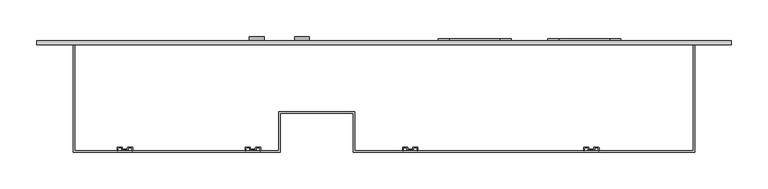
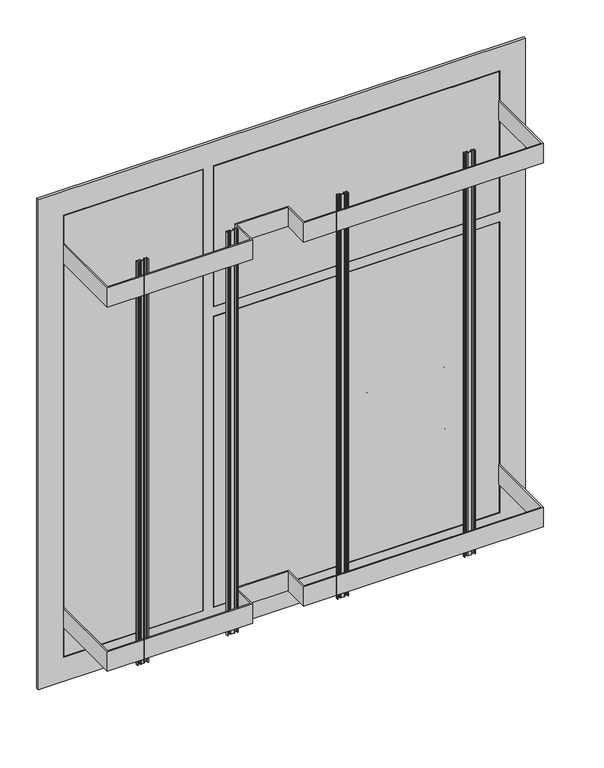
"""IFC4 building model written with IfcOpenShell, lengths in millimetres: proxy geometry, ЩЭ : ЩЭ_5 квартир."""

from ifc_helpers import new_model, si_unit, point, frame, frame_2d, origin, place, context, project, spatial, polyline, circle_curve, trimmed, segment, composite_curve, outline, extrude, source, transform, mapped, element, save
from ifc_brep_helpers import plane_surface, cylinder_surface, revolved_surface, advanced_brep


def electrical_equipment_55ce43f8(model_context):
    return source(origin(), model_context, "Body", "SolidModel", [
        extrude(outline(composite_curve([segment(trimmed(circle_curve(frame_2d((373.0, 89.0)), 15.0), [point((388.0, 89.0))], [point((373.0, 74.0))], False, "CARTESIAN"), True, "CONTINUOUS"), segment(polyline([(373.0, 74.0), (338.0, 74.0)]), True, "CONTINUOUS"), segment(trimmed(circle_curve(frame_2d((338.0, 89.0)), 15.0), [point((338.0, 74.0))], [point((323.0, 89.0))], False, "CARTESIAN"), True, "CONTINUOUS"), segment(polyline([(323.0, 89.0), (323.0, 159.0)]), True, "CONTINUOUS"), segment(trimmed(circle_curve(frame_2d((338.0, 159.0)), 15.0), [point((323.0, 159.0))], [point((338.0, 174.0))], False, "CARTESIAN"), True, "CONTINUOUS"), segment(polyline([(338.0, 174.0), (373.0, 174.0)]), True, "CONTINUOUS"), segment(trimmed(circle_curve(frame_2d((373.0, 159.0)), 15.0), [point((373.0, 174.0))], [point((388.0, 159.0))], False, "CARTESIAN"), True, "CONTINUOUS"), segment(polyline([(388.0, 159.0), (388.0, 89.0)]), True, "CONTINUOUS")], self_intersect=False)), frame((0.0, 5.0, 0.0), z_axis=(0.0, 1.0, 0.0), x_axis=(0.0, 0.0, 1.0)), (0.0, 0.0, 1.0), 3.0),
        extrude(outline(composite_curve([segment(trimmed(circle_curve(frame_2d((373.0, 239.0)), 15.0), [point((388.0, 239.0))], [point((373.0, 224.0))], False, "CARTESIAN"), True, "CONTINUOUS"), segment(polyline([(373.0, 224.0), (338.0, 224.0)]), True, "CONTINUOUS"), segment(trimmed(circle_curve(frame_2d((338.0, 239.0)), 15.0), [point((338.0, 224.0))], [point((323.0, 239.0))], False, "CARTESIAN"), True, "CONTINUOUS"), segment(polyline([(323.0, 239.0), (323.0, 309.0)]), True, "CONTINUOUS"), segment(trimmed(circle_curve(frame_2d((338.0, 309.0)), 15.0), [point((323.0, 309.0))], [point((338.0, 324.0))], False, "CARTESIAN"), True, "CONTINUOUS"), segment(polyline([(338.0, 324.0), (373.0, 324.0)]), True, "CONTINUOUS"), segment(trimmed(circle_curve(frame_2d((373.0, 309.0)), 15.0), [point((373.0, 324.0))], [point((388.0, 309.0))], False, "CARTESIAN"), True, "CONTINUOUS"), segment(polyline([(388.0, 309.0), (388.0, 239.0)]), True, "CONTINUOUS")], self_intersect=False)), frame((0.0, 5.0, 0.0), z_axis=(0.0, 1.0, 0.0), x_axis=(0.0, 0.0, 1.0)), (0.0, 0.0, 1.0), 3.0),
        extrude(outline(composite_curve([segment(trimmed(circle_curve(frame_2d((248.0, 239.0)), 15.0), [point((263.0, 239.0))], [point((248.0, 224.0))], False, "CARTESIAN"), True, "CONTINUOUS"), segment(polyline([(248.0, 224.0), (213.0, 224.0)]), True, "CONTINUOUS"), segment(trimmed(circle_curve(frame_2d((213.0, 239.0)), 15.0), [point((213.0, 224.0))], [point((198.0, 239.0))], False, "CARTESIAN"), True, "CONTINUOUS"), segment(polyline([(198.0, 239.0), (198.0, 309.0)]), True, "CONTINUOUS"), segment(trimmed(circle_curve(frame_2d((213.0, 309.0)), 15.0), [point((198.0, 309.0))], [point((213.0, 324.0))], False, "CARTESIAN"), True, "CONTINUOUS"), segment(polyline([(213.0, 324.0), (248.0, 324.0)]), True, "CONTINUOUS"), segment(trimmed(circle_curve(frame_2d((248.0, 309.0)), 15.0), [point((248.0, 324.0))], [point((263.0, 309.0))], False, "CARTESIAN"), True, "CONTINUOUS"), segment(polyline([(263.0, 309.0), (263.0, 239.0)]), True, "CONTINUOUS")], self_intersect=False)), frame((0.0, 5.0, 0.0), z_axis=(0.0, 1.0, 0.0), x_axis=(0.0, 0.0, 1.0)), (0.0, 0.0, 1.0), 3.0),
        extrude(outline(composite_curve([segment(trimmed(circle_curve(frame_2d((498.0, 89.0)), 15.0), [point((513.0, 89.0))], [point((498.0, 74.0))], False, "CARTESIAN"), True, "CONTINUOUS"), segment(polyline([(498.0, 74.0), (463.0, 74.0)]), True, "CONTINUOUS"), segment(trimmed(circle_curve(frame_2d((463.0, 89.0)), 15.0), [point((463.0, 74.0))], [point((448.0, 89.0))], False, "CARTESIAN"), True, "CONTINUOUS"), segment(polyline([(448.0, 89.0), (448.0, 159.0)]), True, "CONTINUOUS"), segment(trimmed(circle_curve(frame_2d((463.0, 159.0)), 15.0), [point((448.0, 159.0))], [point((463.0, 174.0))], False, "CARTESIAN"), True, "CONTINUOUS"), segment(polyline([(463.0, 174.0), (498.0, 174.0)]), True, "CONTINUOUS"), segment(trimmed(circle_curve(frame_2d((498.0, 159.0)), 15.0), [point((498.0, 174.0))], [point((513.0, 159.0))], False, "CARTESIAN"), True, "CONTINUOUS"), segment(polyline([(513.0, 159.0), (513.0, 89.0)]), True, "CONTINUOUS")], self_intersect=False)), frame((0.0, 5.0, 0.0), z_axis=(0.0, 1.0, 0.0), x_axis=(0.0, 0.0, 1.0)), (0.0, 0.0, 1.0), 3.0),
        extrude(outline(composite_curve([segment(trimmed(circle_curve(frame_2d((498.0, 239.0)), 15.0), [point((513.0, 239.0))], [point((498.0, 224.0))], False, "CARTESIAN"), True, "CONTINUOUS"), segment(polyline([(498.0, 224.0), (463.0, 224.0)]), True, "CONTINUOUS"), segment(trimmed(circle_curve(frame_2d((463.0, 239.0)), 15.0), [point((463.0, 224.0))], [point((448.0, 239.0))], False, "CARTESIAN"), True, "CONTINUOUS"), segment(polyline([(448.0, 239.0), (448.0, 309.0)]), True, "CONTINUOUS"), segment(trimmed(circle_curve(frame_2d((463.0, 309.0)), 15.0), [point((448.0, 309.0))], [point((463.0, 324.0))], False, "CARTESIAN"), True, "CONTINUOUS"), segment(polyline([(463.0, 324.0), (498.0, 324.0)]), True, "CONTINUOUS"), segment(trimmed(circle_curve(frame_2d((498.0, 309.0)), 15.0), [point((498.0, 324.0))], [point((513.0, 309.0))], False, "CARTESIAN"), True, "CONTINUOUS"), segment(polyline([(513.0, 309.0), (513.0, 239.0)]), True, "CONTINUOUS")], self_intersect=False)), frame((0.0, 5.0, 0.0), z_axis=(0.0, 1.0, 0.0), x_axis=(0.0, 0.0, 1.0)), (0.0, 0.0, 1.0), 3.0),
        extrude(outline(composite_curve([segment(trimmed(circle_curve(frame_2d((26.3020158, -141.0)), 1.0), [point((25.3020158, -141.0))], [point((26.3020158, -140.0))], False, "CARTESIAN"), True, "CONTINUOUS"), segment(polyline([(26.3020158, -140.0), (31.3020158, -140.0)]), True, "CONTINUOUS"), segment(trimmed(circle_curve(frame_2d((31.3020158, -141.0)), 1.0), [point((31.3020158, -140.0))], [point((32.3020158, -141.0))], False, "CARTESIAN"), True, "CONTINUOUS"), segment(polyline([(32.3020158, -141.0), (32.3020158, -142.0)]), True, "CONTINUOUS"), segment(trimmed(circle_curve(frame_2d((33.3020158, -142.0)), 1.0), [point((32.3020158, -142.0))], [point((33.3020158, -143.0))], True, "CARTESIAN"), True, "CONTINUOUS"), segment(polyline([(33.3020158, -143.0), (38.3020158, -143.0)]), True, "CONTINUOUS"), segment(trimmed(circle_curve(frame_2d((38.3020158, -142.0)), 1.0), [point((38.3020158, -143.0))], [point((39.3020158, -142.0))], True, "CARTESIAN"), True, "CONTINUOUS"), segment(polyline([(39.3020158, -142.0), (39.3020158, -141.0)]), True, "CONTINUOUS"), segment(trimmed(circle_curve(frame_2d((40.3020158, -141.0)), 1.0), [point((39.3020158, -141.0))], [point((40.3020158, -140.0))], False, "CARTESIAN"), True, "CONTINUOUS"), segment(polyline([(40.3020158, -140.0), (45.3020158, -140.0)]), True, "CONTINUOUS"), segment(trimmed(circle_curve(frame_2d((45.3020158, -141.0)), 1.0), [point((45.3020158, -140.0))], [point((46.3020158, -141.0))], False, "CARTESIAN"), True, "CONTINUOUS"), segment(polyline([(46.3020158, -141.0), (46.3020158, -145.0), (45.3020158, -145.0), (45.3020158, -142.0)]), True, "CONTINUOUS"), segment(trimmed(circle_curve(frame_2d((44.3020158, -142.0)), 1.0), [point((45.3020158, -142.0))], [point((44.3020158, -141.0))], True, "CARTESIAN"), True, "CONTINUOUS"), segment(polyline([(44.3020158, -141.0), (41.3020158, -141.0)]), True, "CONTINUOUS"), segment(trimmed(circle_curve(frame_2d((41.3020158, -142.0)), 1.0), [point((41.3020158, -141.0))], [point((40.3020158, -142.0))], True, "CARTESIAN"), True, "CONTINUOUS"), segment(polyline([(40.3020158, -142.0), (40.3020158, -143.0)]), True, "CONTINUOUS"), segment(trimmed(circle_curve(frame_2d((39.3020158, -143.0)), 1.0), [point((40.3020158, -143.0))], [point((39.3020158, -144.0))], False, "CARTESIAN"), True, "CONTINUOUS"), segment(polyline([(39.3020158, -144.0), (32.3020158, -144.0)]), True, "CONTINUOUS"), segment(trimmed(circle_curve(frame_2d((32.3020158, -143.0)), 1.0), [point((32.3020158, -144.0))], [point((31.3020158, -143.0))], False, "CARTESIAN"), True, "CONTINUOUS"), segment(polyline([(31.3020158, -143.0), (31.3020158, -142.0)]), True, "CONTINUOUS"), segment(trimmed(circle_curve(frame_2d((30.3020158, -142.0)), 1.0), [point((31.3020158, -142.0))], [point((30.3020158, -141.0))], True, "CARTESIAN"), True, "CONTINUOUS"), segment(polyline([(30.3020158, -141.0), (27.3020158, -141.0)]), True, "CONTINUOUS"), segment(trimmed(circle_curve(frame_2d((27.3020158, -142.0)), 1.0), [point((27.3020158, -141.0))], [point((26.3020158, -142.0))], True, "CARTESIAN"), True, "CONTINUOUS"), segment(polyline([(26.3020158, -142.0), (26.3020158, -145.0), (25.3020158, -145.0), (25.3020158, -141.0)]), True, "CONTINUOUS")], self_intersect=False)), frame((0.0, 0.0, 99.2671013), z_axis=(0.0, 0.0, 1.0), x_axis=(1.0, 0.0, 0.0)), (0.0, 0.0, 1.0), 830.6584154),
        extrude(outline(composite_curve([segment(trimmed(circle_curve(frame_2d((274.0, -141.0)), 1.0), [point((273.0, -141.0))], [point((274.0, -140.0))], False, "CARTESIAN"), True, "CONTINUOUS"), segment(polyline([(274.0, -140.0), (279.0, -140.0)]), True, "CONTINUOUS"), segment(trimmed(circle_curve(frame_2d((279.0, -141.0)), 1.0), [point((279.0, -140.0))], [point((280.0, -141.0))], False, "CARTESIAN"), True, "CONTINUOUS"), segment(polyline([(280.0, -141.0), (280.0, -142.0)]), True, "CONTINUOUS"), segment(trimmed(circle_curve(frame_2d((281.0, -142.0)), 1.0), [point((280.0, -142.0))], [point((281.0, -143.0))], True, "CARTESIAN"), True, "CONTINUOUS"), segment(polyline([(281.0, -143.0), (286.0, -143.0)]), True, "CONTINUOUS"), segment(trimmed(circle_curve(frame_2d((286.0, -142.0)), 1.0), [point((286.0, -143.0))], [point((287.0, -142.0))], True, "CARTESIAN"), True, "CONTINUOUS"), segment(polyline([(287.0, -142.0), (287.0, -141.0)]), True, "CONTINUOUS"), segment(trimmed(circle_curve(frame_2d((288.0, -141.0)), 1.0), [point((287.0, -141.0))], [point((288.0, -140.0))], False, "CARTESIAN"), True, "CONTINUOUS"), segment(polyline([(288.0, -140.0), (293.0, -140.0)]), True, "CONTINUOUS"), segment(trimmed(circle_curve(frame_2d((293.0, -141.0)), 1.0), [point((293.0, -140.0))], [point((294.0, -141.0))], False, "CARTESIAN"), True, "CONTINUOUS"), segment(polyline([(294.0, -141.0), (294.0, -145.0), (293.0, -145.0), (293.0, -142.0)]), True, "CONTINUOUS"), segment(trimmed(circle_curve(frame_2d((292.0, -142.0)), 1.0), [point((293.0, -142.0))], [point((292.0, -141.0))], True, "CARTESIAN"), True, "CONTINUOUS"), segment(polyline([(292.0, -141.0), (289.0, -141.0)]), True, "CONTINUOUS"), segment(trimmed(circle_curve(frame_2d((289.0, -142.0)), 1.0), [point((289.0, -141.0))], [point((288.0, -142.0))], True, "CARTESIAN"), True, "CONTINUOUS"), segment(polyline([(288.0, -142.0), (288.0, -143.0)]), True, "CONTINUOUS"), segment(trimmed(circle_curve(frame_2d((287.0, -143.0)), 1.0), [point((288.0, -143.0))], [point((287.0, -144.0))], False, "CARTESIAN"), True, "CONTINUOUS"), segment(polyline([(287.0, -144.0), (280.0, -144.0)]), True, "CONTINUOUS"), segment(trimmed(circle_curve(frame_2d((280.0, -143.0)), 1.0), [point((280.0, -144.0))], [point((279.0, -143.0))], False, "CARTESIAN"), True, "CONTINUOUS"), segment(polyline([(279.0, -143.0), (279.0, -142.0)]), True, "CONTINUOUS"), segment(trimmed(circle_curve(frame_2d((278.0, -142.0)), 1.0), [point((279.0, -142.0))], [point((278.0, -141.0))], True, "CARTESIAN"), True, "CONTINUOUS"), segment(polyline([(278.0, -141.0), (275.0, -141.0)]), True, "CONTINUOUS"), segment(trimmed(circle_curve(frame_2d((275.0, -142.0)), 1.0), [point((275.0, -141.0))], [point((274.0, -142.0))], True, "CARTESIAN"), True, "CONTINUOUS"), segment(polyline([(274.0, -142.0), (274.0, -145.0), (273.0, -145.0), (273.0, -141.0)]), True, "CONTINUOUS")], self_intersect=False)), frame((0.0, 0.0, 99.2671013), z_axis=(0.0, 0.0, 1.0), x_axis=(1.0, 0.0, 0.0)), (0.0, 0.0, 1.0), 830.6584154),
        extrude(outline(composite_curve([segment(trimmed(circle_curve(frame_2d((-188.6979842, -141.0)), 1.0), [point((-189.6979842, -141.0))], [point((-188.6979842, -140.0))], False, "CARTESIAN"), True, "CONTINUOUS"), segment(polyline([(-188.6979842, -140.0), (-183.6979842, -140.0)]), True, "CONTINUOUS"), segment(trimmed(circle_curve(frame_2d((-183.6979842, -141.0)), 1.0), [point((-183.6979842, -140.0))], [point((-182.6979842, -141.0))], False, "CARTESIAN"), True, "CONTINUOUS"), segment(polyline([(-182.6979842, -141.0), (-182.6979842, -142.0)]), True, "CONTINUOUS"), segment(trimmed(circle_curve(frame_2d((-181.6979842, -142.0)), 1.0), [point((-182.6979842, -142.0))], [point((-181.6979842, -143.0))], True, "CARTESIAN"), True, "CONTINUOUS"), segment(polyline([(-181.6979842, -143.0), (-176.6979842, -143.0)]), True, "CONTINUOUS"), segment(trimmed(circle_curve(frame_2d((-176.6979842, -142.0)), 1.0), [point((-176.6979842, -143.0))], [point((-175.6979842, -142.0))], True, "CARTESIAN"), True, "CONTINUOUS"), segment(polyline([(-175.6979842, -142.0), (-175.6979842, -141.0)]), True, "CONTINUOUS"), segment(trimmed(circle_curve(frame_2d((-174.6979842, -141.0)), 1.0), [point((-175.6979842, -141.0))], [point((-174.6979842, -140.0))], False, "CARTESIAN"), True, "CONTINUOUS"), segment(polyline([(-174.6979842, -140.0), (-169.6979842, -140.0)]), True, "CONTINUOUS"), segment(trimmed(circle_curve(frame_2d((-169.6979842, -141.0)), 1.0), [point((-169.6979842, -140.0))], [point((-168.6979842, -141.0))], False, "CARTESIAN"), True, "CONTINUOUS"), segment(polyline([(-168.6979842, -141.0), (-168.6979842, -145.0), (-169.6979842, -145.0), (-169.6979842, -142.0)]), True, "CONTINUOUS"), segment(trimmed(circle_curve(frame_2d((-170.6979842, -142.0)), 1.0), [point((-169.6979842, -142.0))], [point((-170.6979842, -141.0))], True, "CARTESIAN"), True, "CONTINUOUS"), segment(polyline([(-170.6979842, -141.0), (-173.6979842, -141.0)]), True, "CONTINUOUS"), segment(trimmed(circle_curve(frame_2d((-173.6979842, -142.0)), 1.0), [point((-173.6979842, -141.0))], [point((-174.6979842, -142.0))], True, "CARTESIAN"), True, "CONTINUOUS"), segment(polyline([(-174.6979842, -142.0), (-174.6979842, -143.0)]), True, "CONTINUOUS"), segment(trimmed(circle_curve(frame_2d((-175.6979842, -143.0)), 1.0), [point((-174.6979842, -143.0))], [point((-175.6979842, -144.0))], False, "CARTESIAN"), True, "CONTINUOUS"), segment(polyline([(-175.6979842, -144.0), (-182.6979842, -144.0)]), True, "CONTINUOUS"), segment(trimmed(circle_curve(frame_2d((-182.6979842, -143.0)), 1.0), [point((-182.6979842, -144.0))], [point((-183.6979842, -143.0))], False, "CARTESIAN"), True, "CONTINUOUS"), segment(polyline([(-183.6979842, -143.0), (-183.6979842, -142.0)]), True, "CONTINUOUS"), segment(trimmed(circle_curve(frame_2d((-184.6979842, -142.0)), 1.0), [point((-183.6979842, -142.0))], [point((-184.6979842, -141.0))], True, "CARTESIAN"), True, "CONTINUOUS"), segment(polyline([(-184.6979842, -141.0), (-187.6979842, -141.0)]), True, "CONTINUOUS"), segment(trimmed(circle_curve(frame_2d((-187.6979842, -142.0)), 1.0), [point((-187.6979842, -141.0))], [point((-188.6979842, -142.0))], True, "CARTESIAN"), True, "CONTINUOUS"), segment(polyline([(-188.6979842, -142.0), (-188.6979842, -145.0), (-189.6979842, -145.0), (-189.6979842, -141.0)]), True, "CONTINUOUS")], self_intersect=False)), frame((0.0, 0.0, 99.2671013), z_axis=(0.0, 0.0, 1.0), x_axis=(1.0, 0.0, 0.0)), (0.0, 0.0, 1.0), 830.6584154),
        extrude(outline(composite_curve([segment(trimmed(circle_curve(frame_2d((-363.6979842, -141.0)), 1.0), [point((-364.6979842, -141.0))], [point((-363.6979842, -140.0))], False, "CARTESIAN"), True, "CONTINUOUS"), segment(polyline([(-363.6979842, -140.0), (-358.6979842, -140.0)]), True, "CONTINUOUS"), segment(trimmed(circle_curve(frame_2d((-358.6979842, -141.0)), 1.0), [point((-358.6979842, -140.0))], [point((-357.6979842, -141.0))], False, "CARTESIAN"), True, "CONTINUOUS"), segment(polyline([(-357.6979842, -141.0), (-357.6979842, -142.0)]), True, "CONTINUOUS"), segment(trimmed(circle_curve(frame_2d((-356.6979842, -142.0)), 1.0), [point((-357.6979842, -142.0))], [point((-356.6979842, -143.0))], True, "CARTESIAN"), True, "CONTINUOUS"), segment(polyline([(-356.6979842, -143.0), (-351.6979842, -143.0)]), True, "CONTINUOUS"), segment(trimmed(circle_curve(frame_2d((-351.6979842, -142.0)), 1.0), [point((-351.6979842, -143.0))], [point((-350.6979842, -142.0))], True, "CARTESIAN"), True, "CONTINUOUS"), segment(polyline([(-350.6979842, -142.0), (-350.6979842, -141.0)]), True, "CONTINUOUS"), segment(trimmed(circle_curve(frame_2d((-349.6979842, -141.0)), 1.0), [point((-350.6979842, -141.0))], [point((-349.6979842, -140.0))], False, "CARTESIAN"), True, "CONTINUOUS"), segment(polyline([(-349.6979842, -140.0), (-344.6979842, -140.0)]), True, "CONTINUOUS"), segment(trimmed(circle_curve(frame_2d((-344.6979842, -141.0)), 1.0), [point((-344.6979842, -140.0))], [point((-343.6979842, -141.0))], False, "CARTESIAN"), True, "CONTINUOUS"), segment(polyline([(-343.6979842, -141.0), (-343.6979842, -145.0), (-344.6979842, -145.0), (-344.6979842, -142.0)]), True, "CONTINUOUS"), segment(trimmed(circle_curve(frame_2d((-345.6979842, -142.0)), 1.0), [point((-344.6979842, -142.0))], [point((-345.6979842, -141.0))], True, "CARTESIAN"), True, "CONTINUOUS"), segment(polyline([(-345.6979842, -141.0), (-348.6979842, -141.0)]), True, "CONTINUOUS"), segment(trimmed(circle_curve(frame_2d((-348.6979842, -142.0)), 1.0), [point((-348.6979842, -141.0))], [point((-349.6979842, -142.0))], True, "CARTESIAN"), True, "CONTINUOUS"), segment(polyline([(-349.6979842, -142.0), (-349.6979842, -143.0)]), True, "CONTINUOUS"), segment(trimmed(circle_curve(frame_2d((-350.6979842, -143.0)), 1.0), [point((-349.6979842, -143.0))], [point((-350.6979842, -144.0))], False, "CARTESIAN"), True, "CONTINUOUS"), segment(polyline([(-350.6979842, -144.0), (-357.6979842, -144.0)]), True, "CONTINUOUS"), segment(trimmed(circle_curve(frame_2d((-357.6979842, -143.0)), 1.0), [point((-357.6979842, -144.0))], [point((-358.6979842, -143.0))], False, "CARTESIAN"), True, "CONTINUOUS"), segment(polyline([(-358.6979842, -143.0), (-358.6979842, -142.0)]), True, "CONTINUOUS"), segment(trimmed(circle_curve(frame_2d((-359.6979842, -142.0)), 1.0), [point((-358.6979842, -142.0))], [point((-359.6979842, -141.0))], True, "CARTESIAN"), True, "CONTINUOUS"), segment(polyline([(-359.6979842, -141.0), (-362.6979842, -141.0)]), True, "CONTINUOUS"), segment(trimmed(circle_curve(frame_2d((-362.6979842, -142.0)), 1.0), [point((-362.6979842, -141.0))], [point((-363.6979842, -142.0))], True, "CARTESIAN"), True, "CONTINUOUS"), segment(polyline([(-363.6979842, -142.0), (-363.6979842, -145.0), (-364.6979842, -145.0), (-364.6979842, -141.0)]), True, "CONTINUOUS")], self_intersect=False)), frame((0.0, 0.0, 99.2671013), z_axis=(0.0, 0.0, 1.0), x_axis=(1.0, 0.0, 0.0)), (0.0, 0.0, 1.0), 830.6584154),
        extrude(outline(polyline([(424.0, 0.0), (-132.0, 0.0), (-132.0, 5.0), (424.0, 5.0), (424.0, 0.0)])), frame((0.0, 0.0, 670.5), z_axis=(0.0, 0.0, 1.0), x_axis=(1.0, 0.0, 0.0)), (0.0, 0.0, 1.0), 288.5),
        extrude(outline(polyline([(-425.0, -147.0), (-425.0, 0.0), (-423.0, 0.0), (-423.0, -145.0), (-144.0, -145.0), (-144.0, -92.0), (-40.0, -92.0), (-40.0, -145.0), (423.0, -145.0), (423.0, 0.0), (425.0, 0.0), (425.0, -147.0), (-42.0, -147.0), (-42.0, -94.0), (-142.0, -94.0), (-142.0, -147.0), (-425.0, -147.0)])), frame((0.0, 0.0, 860.0), z_axis=(0.0, 0.0, 1.0), x_axis=(1.0, 0.0, 0.0)), (0.0, 0.0, 1.0), 40.0),
        extrude(outline(polyline([(-425.0, -147.0), (-425.0, 0.0), (-423.0, 0.0), (-423.0, -145.0), (-144.0, -145.0), (-144.0, -92.0), (-40.0, -92.0), (-40.0, -145.0), (423.0, -145.0), (423.0, 0.0), (425.0, 0.0), (425.0, -147.0), (-42.0, -147.0), (-42.0, -94.0), (-142.0, -94.0), (-142.0, -147.0), (-425.0, -147.0)])), frame((0.0, 0.0, 110.0), z_axis=(0.0, 0.0, 1.0), x_axis=(1.0, 0.0, 0.0)), (0.0, 0.0, 1.0), 40.0),
        advanced_brep(
        [(-184.0, 5.0, 505.0), (-164.0, 5.0, 505.0), (-174.0, 5.0, 505.0), (-184.0, 11.0, 505.0), (-164.0, 11.0, 505.0), (-177.1377642, 11.0, 505.0), (-170.8622358, 11.0, 505.0), (-177.1377642, 9.9822294, 505.0), (-170.8622358, 9.9822294, 505.0), (-174.0, 9.9822294, 505.0)],
        [
            (0, 1, circle_curve(frame((-174.0, 5.0, 505.0), z_axis=(0.0, -1.0, 0.0), x_axis=(1.0, 0.0, 0.0)), 10.0)),
            (1, 2),
            (2, 0),
            (1, 0, circle_curve(frame((-174.0, 5.0, 505.0), z_axis=(0.0, -1.0, 0.0), x_axis=(1.0, 0.0, 0.0)), 10.0)),
            (3, 4, circle_curve(frame((-174.0, 11.0, 505.0), z_axis=(0.0, -1.0, 0.0), x_axis=(1.0, 0.0, 0.0)), 10.0)),
            (4, 1),
            (0, 3),
            (4, 3, circle_curve(frame((-174.0, 11.0, 505.0), z_axis=(0.0, -1.0, 0.0), x_axis=(1.0, 0.0, 0.0)), 10.0)),
            (5, 6, circle_curve(frame((-174.0, 11.0, 505.0), z_axis=(0.0, -1.0, 0.0), x_axis=(1.0, 0.0, 0.0)), 3.1377642)),
            (6, 4),
            (3, 5),
            (6, 5, circle_curve(frame((-174.0, 11.0, 505.0), z_axis=(0.0, -1.0, 0.0), x_axis=(1.0, 0.0, 0.0)), 3.1377642)),
            (7, 8, circle_curve(frame((-174.0, 9.9822294, 505.0), z_axis=(0.0, -1.0, 0.0), x_axis=(1.0, 0.0, 0.0)), 3.1377642)),
            (8, 6),
            (5, 7),
            (8, 7, circle_curve(frame((-174.0, 9.9822294, 505.0), z_axis=(0.0, -1.0, 0.0), x_axis=(1.0, 0.0, 0.0)), 3.1377642)),
            (9, 8),
            (7, 9),
        ],
        [
            plane_surface(frame((-174.0, 5.0, 505.0), z_axis=(0.0, -1.0, 0.0), x_axis=(1.0, 0.0, 0.0))),
            cylinder_surface(frame((-174.0, 18.1348851, 505.0), z_axis=(0.0, 1.0, 0.0), x_axis=(1.0, 0.0, 0.0)), 10.0),
            plane_surface(frame((-174.0, 11.0, 505.0), z_axis=(0.0, 1.0, 0.0), x_axis=(1.0, 0.0, 0.0))),
            revolved_surface(polyline([(-170.8622358, 11.0, 505.0), (-170.8622358, 9.9822294, 505.0)]), (-174.0, 18.1348851, 505.0), (0.0, 1.0, 0.0)),
            plane_surface(frame((-174.0, 9.9822294, 505.0), z_axis=(0.0, 1.0, 0.0), x_axis=(1.0, 0.0, 0.0))),
        ],
        [
            (0, [[1, 2, 3]]),
            (0, [[4, -3, -2]]),
            (1, [[5, 6, -1, 7]]),
            (1, [[8, -7, -4, -6]]),
            (2, [[9, 10, -5, 11]]),
            (2, [[12, -11, -8, -10]]),
            (3, [[13, 14, -9, 15]]),
            (3, [[16, -15, -12, -14]]),
            (4, [[17, -13, 18]]),
            (4, [[-18, -16, -17]]),
        ],
    ),
        advanced_brep(
        [(-122.0, 5.0, 340.3115373), (-102.0, 5.0, 340.3115373), (-112.0, 5.0, 340.3115373), (-122.0, 11.0, 340.3115373), (-102.0, 11.0, 340.3115373), (-115.1377642, 11.0, 340.3115373), (-108.8622358, 11.0, 340.3115373), (-115.1377642, 9.9822294, 340.3115373), (-108.8622358, 9.9822294, 340.3115373), (-112.0, 9.9822294, 340.3115373)],
        [
            (0, 1, circle_curve(frame((-112.0, 5.0, 340.3115373), z_axis=(0.0, -1.0, 0.0), x_axis=(1.0, 0.0, 0.0)), 10.0)),
            (1, 2),
            (2, 0),
            (1, 0, circle_curve(frame((-112.0, 5.0, 340.3115373), z_axis=(0.0, -1.0, 0.0), x_axis=(1.0, 0.0, 0.0)), 10.0)),
            (3, 4, circle_curve(frame((-112.0, 11.0, 340.3115373), z_axis=(0.0, -1.0, 0.0), x_axis=(1.0, 0.0, 0.0)), 10.0)),
            (4, 1),
            (0, 3),
            (4, 3, circle_curve(frame((-112.0, 11.0, 340.3115373), z_axis=(0.0, -1.0, 0.0), x_axis=(1.0, 0.0, 0.0)), 10.0)),
            (5, 6, circle_curve(frame((-112.0, 11.0, 340.3115373), z_axis=(0.0, -1.0, 0.0), x_axis=(1.0, 0.0, 0.0)), 3.1377642)),
            (6, 4),
            (3, 5),
            (6, 5, circle_curve(frame((-112.0, 11.0, 340.3115373), z_axis=(0.0, -1.0, 0.0), x_axis=(1.0, 0.0, 0.0)), 3.1377642)),
            (7, 8, circle_curve(frame((-112.0, 9.9822294, 340.3115373), z_axis=(0.0, -1.0, 0.0), x_axis=(1.0, 0.0, 0.0)), 3.1377642)),
            (8, 6),
            (5, 7),
            (8, 7, circle_curve(frame((-112.0, 9.9822294, 340.3115373), z_axis=(0.0, -1.0, 0.0), x_axis=(1.0, 0.0, 0.0)), 3.1377642)),
            (9, 8),
            (7, 9),
        ],
        [
            plane_surface(frame((-112.0, 5.0, 340.3115373), z_axis=(0.0, -1.0, 0.0), x_axis=(1.0, 0.0, 0.0))),
            cylinder_surface(frame((-112.0, 18.1348851, 340.3115373), z_axis=(0.0, 1.0, 0.0), x_axis=(1.0, 0.0, 0.0)), 10.0),
            plane_surface(frame((-112.0, 11.0, 340.3115373), z_axis=(0.0, 1.0, 0.0), x_axis=(1.0, 0.0, 0.0))),
            revolved_surface(polyline([(-108.8622358, 11.0, 340.3115373), (-108.8622358, 9.9822294, 340.3115373)]), (-112.0, 18.1348851, 340.3115373), (0.0, 1.0, 0.0)),
            plane_surface(frame((-112.0, 9.9822294, 340.3115373), z_axis=(0.0, 1.0, 0.0), x_axis=(1.0, 0.0, 0.0))),
        ],
        [
            (0, [[1, 2, 3]]),
            (0, [[4, -3, -2]]),
            (1, [[5, 6, -1, 7]]),
            (1, [[8, -7, -4, -6]]),
            (2, [[9, 10, -5, 11]]),
            (2, [[12, -11, -8, -10]]),
            (3, [[13, 14, -9, 15]]),
            (3, [[16, -15, -12, -14]]),
            (4, [[17, -13, 18]]),
            (4, [[-18, -16, -17]]),
        ],
    ),
        advanced_brep(
        [(-122.0, 5.0, 780.3115373), (-102.0, 5.0, 780.3115373), (-112.0, 5.0, 780.3115373), (-122.0, 11.0, 780.3115373), (-102.0, 11.0, 780.3115373), (-115.1377642, 11.0, 780.3115373), (-108.8622358, 11.0, 780.3115373), (-115.1377642, 9.9822294, 780.3115373), (-108.8622358, 9.9822294, 780.3115373), (-112.0, 9.9822294, 780.3115373)],
        [
            (0, 1, circle_curve(frame((-112.0, 5.0, 780.3115373), z_axis=(0.0, -1.0, 0.0), x_axis=(1.0, 0.0, 0.0)), 10.0)),
            (1, 2),
            (2, 0),
            (1, 0, circle_curve(frame((-112.0, 5.0, 780.3115373), z_axis=(0.0, -1.0, 0.0), x_axis=(1.0, 0.0, 0.0)), 10.0)),
            (3, 4, circle_curve(frame((-112.0, 11.0, 780.3115373), z_axis=(0.0, -1.0, 0.0), x_axis=(1.0, 0.0, 0.0)), 10.0)),
            (4, 1),
            (0, 3),
            (4, 3, circle_curve(frame((-112.0, 11.0, 780.3115373), z_axis=(0.0, -1.0, 0.0), x_axis=(1.0, 0.0, 0.0)), 10.0)),
            (5, 6, circle_curve(frame((-112.0, 11.0, 780.3115373), z_axis=(0.0, -1.0, 0.0), x_axis=(1.0, 0.0, 0.0)), 3.1377642)),
            (6, 4),
            (3, 5),
            (6, 5, circle_curve(frame((-112.0, 11.0, 780.3115373), z_axis=(0.0, -1.0, 0.0), x_axis=(1.0, 0.0, 0.0)), 3.1377642)),
            (7, 8, circle_curve(frame((-112.0, 9.9822294, 780.3115373), z_axis=(0.0, -1.0, 0.0), x_axis=(1.0, 0.0, 0.0)), 3.1377642)),
            (8, 6),
            (5, 7),
            (8, 7, circle_curve(frame((-112.0, 9.9822294, 780.3115373), z_axis=(0.0, -1.0, 0.0), x_axis=(1.0, 0.0, 0.0)), 3.1377642)),
            (9, 8),
            (7, 9),
        ],
        [
            plane_surface(frame((-112.0, 5.0, 780.3115373), z_axis=(0.0, -1.0, 0.0), x_axis=(1.0, 0.0, 0.0))),
            cylinder_surface(frame((-112.0, 18.1348851, 780.3115373), z_axis=(0.0, 1.0, 0.0), x_axis=(1.0, 0.0, 0.0)), 10.0),
            plane_surface(frame((-112.0, 11.0, 780.3115373), z_axis=(0.0, 1.0, 0.0), x_axis=(1.0, 0.0, 0.0))),
            revolved_surface(polyline([(-108.8622358, 11.0, 780.3115373), (-108.8622358, 9.9822294, 780.3115373)]), (-112.0, 18.1348851, 780.3115373), (0.0, 1.0, 0.0)),
            plane_surface(frame((-112.0, 9.9822294, 780.3115373), z_axis=(0.0, 1.0, 0.0), x_axis=(1.0, 0.0, 0.0))),
        ],
        [
            (0, [[1, 2, 3]]),
            (0, [[4, -3, -2]]),
            (1, [[5, 6, -1, 7]]),
            (1, [[8, -7, -4, -6]]),
            (2, [[9, 10, -5, 11]]),
            (2, [[12, -11, -8, -10]]),
            (3, [[13, 14, -9, 15]]),
            (3, [[16, -15, -12, -14]]),
            (4, [[17, -13, 18]]),
            (4, [[-18, -16, -17]]),
        ],
    ),
        extrude(outline(polyline([(-154.0, 0.0), (-424.0, 0.0), (-424.0, 5.0), (-154.0, 5.0), (-154.0, 0.0)])), frame((0.0, 0.0, 51.0), z_axis=(0.0, 0.0, 1.0), x_axis=(1.0, 0.0, 0.0)), (0.0, 0.0, 1.0), 908.0),
        extrude(outline(polyline([(424.0, 0.0), (-132.0, 0.0), (-132.0, 5.0), (424.0, 5.0), (424.0, 0.0)])), frame((0.0, 0.0, 51.0), z_axis=(0.0, 0.0, 1.0), x_axis=(1.0, 0.0, 0.0)), (0.0, 0.0, 1.0), 597.5),
        extrude(outline(polyline([(1010.0, -475.0), (0.0, -475.0), (0.0, 475.0), (1010.0, 475.0), (1010.0, -475.0)]), holes=[polyline([(960.0, -133.0), (960.0, 425.0), (669.5, 425.0), (669.5, -133.0), (960.0, -133.0)]), polyline([(649.5, 425.0), (50.0, 425.0), (50.0, -133.0), (649.5, -133.0), (649.5, 425.0)]), polyline([(50.0, -153.0), (50.0, -425.0), (960.0, -425.0), (960.0, -153.0), (50.0, -153.0)])]), frame((0.0, 0.0, 0.0), z_axis=(0.0, 1.0, 0.0), x_axis=(0.0, 0.0, 1.0)), (0.0, 0.0, 1.0), 5.0),
    ])


if __name__ == "__main__":
    model = new_model("IFC4")
    model_context = context("Model", 3, world=origin())
    ifc_project = project(units=[si_unit("LENGTHUNIT", "METRE", prefix="MILLI")], contexts=[model_context])
    site = spatial("IfcSite", under=ifc_project)
    building = spatial("IfcBuilding", under=site)
    placement = place(None, origin())
    electrical_equipment_shape = electrical_equipment_55ce43f8(model_context)
    element("IfcBuildingElementProxy", 1, Name="ЩЭ : ЩЭ_5 квартир", ObjectType="ЩЭ : ЩЭ_5 квартир", at=placement, inside=building, context=model_context, shape_type="MappedRepresentation", body=[
        mapped(electrical_equipment_shape, transform((0.0, 0.0, 0.0), x_axis=(1.0, 0.0, 0.0), y_axis=(0.0, 1.0, 0.0), z_axis=(0.0, 0.0, 1.0))),
    ])
    save(model, "model.ifc")
